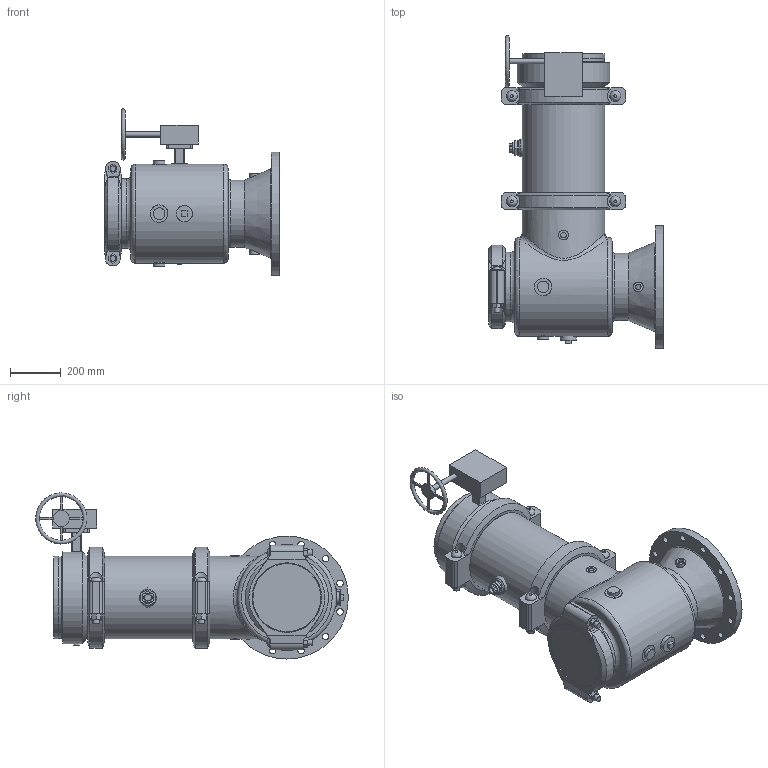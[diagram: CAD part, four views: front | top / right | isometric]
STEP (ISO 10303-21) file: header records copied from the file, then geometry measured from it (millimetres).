
FILE_DESCRIPTION(/* description */ ('VIC SVI PUMP DROP HORZ S/391 (OGSxFLG)','CAx-IF Rec.Pracs.---Representation and Presentation of Product Manufacturing Information (PMI)---4.0---2014-10-13'),/* implementation_level */ '2;1');
FILE_NAME(/* name */ 'C:\Users\Vjadhav\AppData\Roaming\Autodesk\ApplicationPlugins\Victaulic.Temp\A952\Victaulic_IPS_SVI_CL 150_Series 391 (OGSxFLG)_12.0x12.0 (300x300).stp',/* time_stamp */ '2021-04-09T17:55:18+05:00',/* author */ ('kkamble'),/* organization */ ('Victaulic'),/* preprocessor_version */ 'ST-DEVELOPER v17.2',/* originating_system */ 'Autodesk Inventor 2019',/* authorisation */ '');
FILE_SCHEMA (('AP242_MANAGED_MODEL_BASED_3D_ENGINEERING_MIM_LF { 1 0 10303 442 1 1 4 }'));
Length unit declared in the file: inch
Products named in the file (9): 391-12.0x12.0; 731D-12.0x12.0; 731D-12.0x12.0_1; 731D-12.0; 07-10.0; PIPE-12.0; 761-12.0; 077-12.0; 923-10.0x0.75
Assembly tree (9 placements, depth 3):
  391-12.0x12.0
    731D-12.0x12.0
      731D-12.0x12.0_1
      731D-12.0
      07-10.0
    PIPE-12.0
    761-12.0
    077-12.0  x2
    923-10.0x0.75
Bounding box: 685.8 x 1227.31 x 652.25 mm (x, y, z)
Volume: 46185542 mm3; surface area: 4409306.9 mm2
Topology: 8 solids, 15 shells, 451 faces, 1133 edges, 777 vertices
Faces by surface type: plane 249, cylinder 163, cone 19, torus 10, bspline 8, sphere 2
Full cylindrical faces by diameter (mm): 10.922 x4, 20.066 x1, 21.336 x5, 22.225 x4, 22.86 x1, 25.4 x20, 26.67 x1, 27.432 x4, 31.75 x1, 37.694 x2, 38.1 x4, 45.72 x3, 45.974 x2, 55.626 x1, 63.079 x1, 63.5 x1, 70.104 x1, 76.2 x1, 233.68 x1, 246.888 x1, 247.65 x1, 260.35 x1, 263.652 x1, 268.275 x2, 273.05 x5, 296.926 x1, 303.225 x1, 304.8 x2, 314.96 x2, 318.287 x5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
Entity records: 14295 total; most frequent: CARTESIAN_POINT 3703, DIRECTION 2150, ORIENTED_EDGE 1976, EDGE_CURVE 988, AXIS2_PLACEMENT_3D 842, VERTEX_POINT 679, EDGE_LOOP 507, LINE 466
